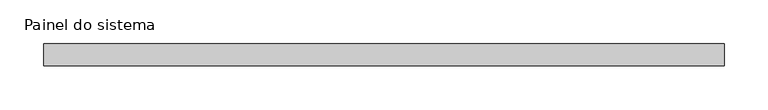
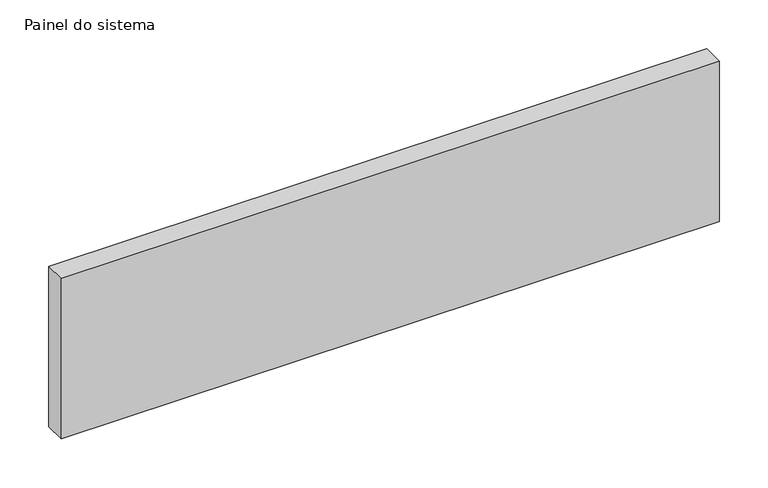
"""IFC4 building model written with IfcOpenShell, lengths in millimetres: plate geometry, Painel do sistema : Envidraçado."""

from ifc_helpers import new_model, si_unit, origin, origin_with_axes, place, context, project, spatial, polyline, outline, extrude, source, transform, mapped, element, save


def painel_do_sistema_d05bde8f(model_context):
    return source(origin(), model_context, "Body", "SweptSolid", [
        extrude(outline(polyline([(387.7521688, 24.5), (-387.7521688, 24.5), (-387.7521688, 49.5), (387.7521688, 49.5), (387.7521688, 24.5)])), origin_with_axes(), (0.0, 0.0, 1.0), 199.8945406),
    ])


if __name__ == "__main__":
    model = new_model("IFC4")
    model_context = context("Model", 3, world=origin())
    ifc_project = project(units=[si_unit("LENGTHUNIT", "METRE", prefix="MILLI")], contexts=[model_context])
    site = spatial("IfcSite", under=ifc_project)
    building = spatial("IfcBuilding", under=site)
    placement = place(None, origin())
    painel_do_sistema_shape = painel_do_sistema_d05bde8f(model_context)
    element("IfcPlate", 1, ObjectType="Painel do sistema : Envidraçado", at=placement, inside=building, context=model_context, shape_type="MappedRepresentation", body=[
        mapped(painel_do_sistema_shape, transform((0.0, 0.0, 0.0), x_axis=(1.0, 0.0, 0.0), y_axis=(0.0, 1.0, 0.0), z_axis=(0.0, 0.0, 1.0))),
    ])
    save(model, "model.ifc")
